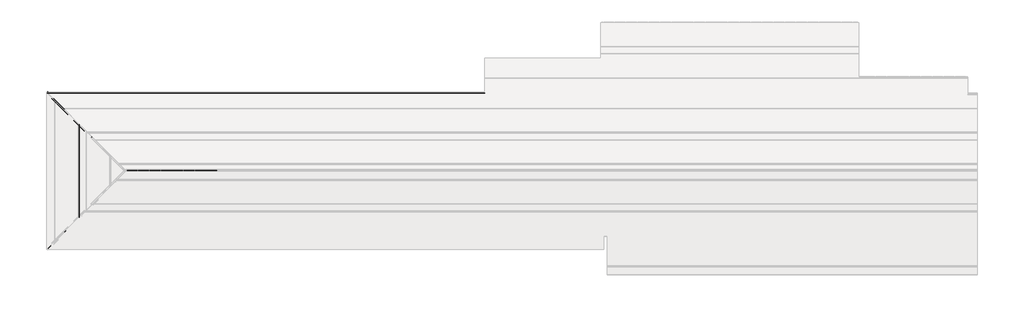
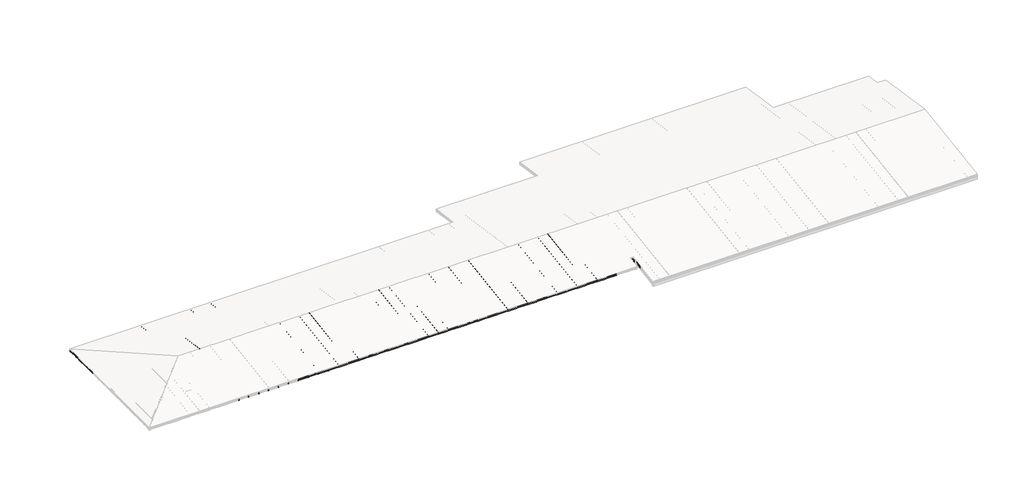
# One storey, part 2 of 5: 54 plates, 48 members.
"""IFC4 building model written with IfcOpenShell, lengths in millimetres."""

from ifc_helpers import new_model, si_unit, origin, place, context, project, spatial, transform, mapped, element, save
from components import rectangular_mullion_bbf62922, rectangular_mullion_e5e8d682, rectangular_mullion_0c49ef61, rectangular_mullion_e713be55, rectangular_mullion_00b2bed0, rectangular_mullion_bd6efb2f, rectangular_mullion_a21c3188, rectangular_mullion_b5eedd0f, rectangular_mullion_e9ded699, rectangular_mullion_307d02f0, rectangular_mullion_8ea9f5d9, rectangular_mullion_caibro_4x6_cm_5a20d9f2, rectangular_mullion_caibro_4x6_cm_82faaf76, rectangular_mullion_caibro_4x6_cm_ced69cca, rectangular_mullion_caibro_4x6_cm_cb7c813f, rectangular_mullion_caibro_4x6_cm_0dd1b79d, rectangular_mullion_caibro_4x6_cm_ab382801, rectangular_mullion_caibro_4x6_cm_8b7b774c, rectangular_mullion_caibro_4x6_cm_f4b4e3a9, rectangular_mullion_caibro_4x6_cm_b0cc08a8, rectangular_mullion_caibro_4x6_cm_55eea3d4, rectangular_mullion_caibro_4x6_cm_cc310553, empty_system_panel_empty_9e1b447b, empty_system_panel_empty_7d408543, empty_system_panel_empty_2ba5a98a, empty_system_panel_empty_6623d2ed, empty_system_panel_empty_d8ed4732, empty_system_panel_empty_2293368e, empty_system_panel_empty_8c4cd139, empty_system_panel_empty_6ffdb811, empty_system_panel_empty_0af2d2b1, empty_system_panel_empty_6e2854e8, empty_system_panel_empty_22570948, empty_system_panel_empty_322303ac, empty_system_panel_empty_4bf87af0, empty_system_panel_empty_255742c4, empty_system_panel_empty_851c8931

model = new_model("IFC4")

# Units and contexts
model_context = context("Model", 3, world=origin())
ifc_project = project(units=[si_unit("LENGTHUNIT", "METRE", prefix="MILLI")], contexts=[model_context])

# Site, building, storey
site = spatial("IfcSite", under=ifc_project)
building = spatial("IfcBuilding", under=site)
storey = spatial("IfcBuildingStorey", under=building, Name="NÍVEL 1", Elevation=3400.0)

# Members
placement = place(None, origin())
rectangular_mullion_shape = rectangular_mullion_bbf62922(model_context)
element("IfcMember", 1, ObjectType="Rectangular Mullion : RIPA 4x2 cm", at=placement, inside=storey, context=model_context, shape_type="MappedRepresentation", body=[
    mapped(rectangular_mullion_shape, transform((-19807.3834094, -5252.0637549, 3807.25), x_axis=(0.0, 0.9889363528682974, 0.1483404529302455), y_axis=(0.0, 0.1483404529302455, -0.9889363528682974), z_axis=(-1.0, 0.0, 0.0))),
])
rectangular_mullion_2_shape = rectangular_mullion_e5e8d682(model_context)
element("IfcMember", 2, ObjectType="Rectangular Mullion : RIPA 4x2 cm", at=placement, inside=storey, context=model_context, shape_type="MappedRepresentation", body=[
    mapped(rectangular_mullion_2_shape, transform((-23257.5493641, -1801.8978002, 3289.7251068), x_axis=(0.0, 0.9889363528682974, -0.1483404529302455), y_axis=(0.0, -0.1483404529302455, -0.9889363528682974), z_axis=(-1.0, 0.0, 0.0))),
])
rectangular_mullion_3_shape = rectangular_mullion_0c49ef61(model_context)
element("IfcMember", 3, ObjectType="Rectangular Mullion : RIPA 4x2 cm", at=placement, inside=storey, context=model_context, shape_type="MappedRepresentation", body=[
    mapped(rectangular_mullion_3_shape, transform((-19852.9442768, -5297.6246223, 3800.4158699), x_axis=(0.0, 0.9889363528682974, 0.1483404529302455), y_axis=(0.0, 0.1483404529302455, -0.9889363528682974), z_axis=(-1.0, 0.0, 0.0))),
])
rectangular_mullion_4_shape = rectangular_mullion_e713be55(model_context)
element("IfcMember", 4, ObjectType="Rectangular Mullion : RIPA 4x2 cm", at=placement, inside=storey, context=model_context, shape_type="MappedRepresentation", body=[
    mapped(rectangular_mullion_4_shape, transform((-22891.6429135, -2167.8042507, 3344.6110744), x_axis=(0.9889363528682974, 0.0, 0.14834045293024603), y_axis=(0.14834045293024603, 0.0, -0.9889363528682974), z_axis=(0.0, 1.0, 0.0))),
])
rectangular_mullion_5_shape = rectangular_mullion_00b2bed0(model_context)
element("IfcMember", 5, ObjectType="Rectangular Mullion : RIPA 4x2 cm", at=placement, inside=storey, context=model_context, shape_type="MappedRepresentation", body=[
    mapped(rectangular_mullion_5_shape, transform((-22545.51519, -2513.9319742, 3396.5302329), x_axis=(0.9889363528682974, 0.0, 0.14834045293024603), y_axis=(0.14834045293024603, 0.0, -0.9889363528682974), z_axis=(0.0, 1.0, 0.0))),
])
rectangular_mullion_6_shape = rectangular_mullion_bd6efb2f(model_context)
element("IfcMember", 6, ObjectType="Rectangular Mullion : RIPA 4x2 cm", at=placement, inside=storey, context=model_context, shape_type="MappedRepresentation", body=[
    mapped(rectangular_mullion_6_shape, transform((-22199.3874665, -2860.0596977, 3448.4493914), x_axis=(0.9889363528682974, 0.0, 0.14834045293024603), y_axis=(0.14834045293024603, 0.0, -0.9889363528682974), z_axis=(0.0, 1.0, 0.0))),
])
rectangular_mullion_7_shape = rectangular_mullion_a21c3188(model_context)
element("IfcMember", 7, ObjectType="Rectangular Mullion : RIPA 4x2 cm", at=placement, inside=storey, context=model_context, shape_type="MappedRepresentation", body=[
    mapped(rectangular_mullion_7_shape, transform((-21853.259743, -3206.1874213, 3500.36855), x_axis=(0.9889363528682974, 0.0, 0.14834045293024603), y_axis=(0.14834045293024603, 0.0, -0.9889363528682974), z_axis=(0.0, 1.0, 0.0))),
])
rectangular_mullion_8_shape = rectangular_mullion_b5eedd0f(model_context)
element("IfcMember", 8, ObjectType="Rectangular Mullion : RIPA 4x2 cm", at=placement, inside=storey, context=model_context, shape_type="MappedRepresentation", body=[
    mapped(rectangular_mullion_8_shape, transform((-21507.1320195, -3552.3151448, 3552.2877085), x_axis=(0.9889363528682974, 0.0, 0.14834045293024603), y_axis=(0.14834045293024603, 0.0, -0.9889363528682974), z_axis=(0.0, 1.0, 0.0))),
])
rectangular_mullion_9_shape = rectangular_mullion_e9ded699(model_context)
element("IfcMember", 9, ObjectType="Rectangular Mullion : RIPA 4x2 cm", at=placement, inside=storey, context=model_context, shape_type="MappedRepresentation", body=[
    mapped(rectangular_mullion_9_shape, transform((-21161.004296, -3898.4428683, 3604.206867), x_axis=(0.9889363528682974, 0.0, 0.14834045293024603), y_axis=(0.14834045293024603, 0.0, -0.9889363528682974), z_axis=(0.0, 1.0, 0.0))),
])
rectangular_mullion_10_shape = rectangular_mullion_307d02f0(model_context)
element("IfcMember", 10, ObjectType="Rectangular Mullion : TERÇA 6x12 cm", at=placement, inside=storey, context=model_context, shape_type="MappedRepresentation", body=[
    mapped(rectangular_mullion_10_shape, transform((-22657.5493641, -2401.8978002, 3316.0538615), x_axis=(0.0, 0.9889363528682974, -0.1483404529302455), y_axis=(0.0, -0.1483404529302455, -0.9889363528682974), z_axis=(-1.0, 0.0, 0.0))),
])
rectangular_mullion_11_shape = rectangular_mullion_8ea9f5d9(model_context)
element("IfcMember", 11, ObjectType="Rectangular Mullion : TERÇA 6x12 cm", at=placement, inside=storey, context=model_context, shape_type="MappedRepresentation", body=[
    mapped(rectangular_mullion_11_shape, transform((-21108.7940244, -3950.6531399, 3548.3671625), x_axis=(0.9889363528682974, 0.0, 0.14834045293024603), y_axis=(0.14834045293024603, 0.0, -0.9889363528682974), z_axis=(0.0, 1.0, 0.0))),
])
rectangular_mullion_caibro_4x6_cm_shape = rectangular_mullion_caibro_4x6_cm_5a20d9f2(model_context)
element("IfcMember", 12, ObjectType="Rectangular Mullion : CAIBRO 4x6 cm", at=placement, inside=storey, context=model_context, shape_type="MappedRepresentation", body=[
    mapped(rectangular_mullion_caibro_4x6_cm_shape, transform((-22764.6685134, -2294.7786509, 3363.6572344), x_axis=(0.0, -1.0, 0.0), y_axis=(0.1483404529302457, 0.0, -0.9889363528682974), z_axis=(0.9889363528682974, 0.0, 0.1483404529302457))),
])
rectangular_mullion_caibro_4x6_cm_2_shape = rectangular_mullion_caibro_4x6_cm_82faaf76(model_context)
element("IfcMember", 13, ObjectType="Rectangular Mullion : CAIBRO 4x6 cm", at=placement, inside=storey, context=model_context, shape_type="MappedRepresentation", body=[
    mapped(rectangular_mullion_caibro_4x6_cm_2_shape, transform((-22271.7876627, -2787.6595015, 3437.589362), x_axis=(0.0, -1.0, 0.0), y_axis=(0.1483404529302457, 0.0, -0.9889363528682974), z_axis=(0.9889363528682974, 0.0, 0.1483404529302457))),
])
rectangular_mullion_caibro_4x6_cm_3_shape = rectangular_mullion_caibro_4x6_cm_ced69cca(model_context)
element("IfcMember", 14, ObjectType="Rectangular Mullion : CAIBRO 4x6 cm", at=placement, inside=storey, context=model_context, shape_type="MappedRepresentation", body=[
    mapped(rectangular_mullion_caibro_4x6_cm_3_shape, transform((-21778.9068121, -3280.5403522, 3511.5214896), x_axis=(0.0, -1.0, 0.0), y_axis=(0.14834045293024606, 0.0, -0.9889363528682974), z_axis=(0.9889363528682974, 0.0, 0.14834045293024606))),
])
rectangular_mullion_caibro_4x6_cm_4_shape = rectangular_mullion_caibro_4x6_cm_cb7c813f(model_context)
element("IfcMember", 15, ObjectType="Rectangular Mullion : CAIBRO 4x6 cm", at=placement, inside=storey, context=model_context, shape_type="MappedRepresentation", body=[
    mapped(rectangular_mullion_caibro_4x6_cm_4_shape, transform((-21286.0259614, -3773.4212029, 3585.4536172), x_axis=(0.0, -1.0, 0.0), y_axis=(0.14834045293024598, 0.0, -0.9889363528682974), z_axis=(0.9889363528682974, 0.0, 0.14834045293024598))),
])
rectangular_mullion_caibro_4x6_cm_5_shape = rectangular_mullion_caibro_4x6_cm_0dd1b79d(model_context)
element("IfcMember", 16, ObjectType="Rectangular Mullion : CAIBRO 4x6 cm", at=placement, inside=storey, context=model_context, shape_type="MappedRepresentation", body=[
    mapped(rectangular_mullion_caibro_4x6_cm_5_shape, transform((-21260.7120004, -3798.7351638, 3589.2507113), x_axis=(-1.0, 0.0, 0.0), y_axis=(0.0, -0.1483404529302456, -0.9889363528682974), z_axis=(0.0, -0.9889363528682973, 0.14834045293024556))),
])
rectangular_mullion_caibro_4x6_cm_6_shape = rectangular_mullion_caibro_4x6_cm_ab382801(model_context)
element("IfcMember", 17, ObjectType="Rectangular Mullion : CAIBRO 4x6 cm", at=placement, inside=storey, context=model_context, shape_type="MappedRepresentation", body=[
    mapped(rectangular_mullion_caibro_4x6_cm_6_shape, transform((-21759.9213413, -3299.5258229, 3514.3693102), x_axis=(-1.0, 0.0, 0.0), y_axis=(0.0, -0.14834045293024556, -0.9889363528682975), z_axis=(0.0, -0.9889363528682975, 0.14834045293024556))),
])
rectangular_mullion_caibro_4x6_cm_7_shape = rectangular_mullion_caibro_4x6_cm_8b7b774c(model_context)
element("IfcMember", 18, ObjectType="Rectangular Mullion : CAIBRO 4x6 cm", at=placement, inside=storey, context=model_context, shape_type="MappedRepresentation", body=[
    mapped(rectangular_mullion_caibro_4x6_cm_7_shape, transform((-22259.1306822, -2800.316482, 3439.4879091), x_axis=(-1.0, 0.0, 0.0), y_axis=(0.0, -0.14834045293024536, -0.9889363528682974), z_axis=(0.0, -0.9889363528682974, 0.14834045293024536))),
])
rectangular_mullion_caibro_4x6_cm_8_shape = rectangular_mullion_caibro_4x6_cm_f4b4e3a9(model_context)
element("IfcMember", 19, ObjectType="Rectangular Mullion : CAIBRO 4x6 cm", at=placement, inside=storey, context=model_context, shape_type="MappedRepresentation", body=[
    mapped(rectangular_mullion_caibro_4x6_cm_8_shape, transform((-22758.3400232, -2301.1071411, 3364.6065079), x_axis=(-1.0, 0.0, 0.0), y_axis=(0.0, -0.14834045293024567, -0.9889363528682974), z_axis=(0.0, -0.9889363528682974, 0.14834045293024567))),
])
rectangular_mullion_caibro_4x6_cm_9_shape = rectangular_mullion_caibro_4x6_cm_b0cc08a8(model_context)
element("IfcMember", 20, ObjectType="Rectangular Mullion : CAIBRO 4x6 cm", at=placement, inside=storey, context=model_context, shape_type="MappedRepresentation", body=[
    mapped(rectangular_mullion_caibro_4x6_cm_9_shape, transform((-23257.5493641, -1801.8978002, 3289.7251068), x_axis=(0.6953830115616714, 0.7110291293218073, 0.1043074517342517), y_axis=(0.14834045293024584, 0.0, -0.9889363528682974), z_axis=(-0.703162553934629, 0.7031625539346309, -0.10547438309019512))),
])
rectangular_mullion_caibro_4x6_cm_10_shape = rectangular_mullion_caibro_4x6_cm_55eea3d4(model_context)
element("IfcMember", 21, ObjectType="Rectangular Mullion : CAIBRO 4x6 cm", at=placement, inside=storey, context=model_context, shape_type="MappedRepresentation", body=[
    mapped(rectangular_mullion_caibro_4x6_cm_10_shape, transform((-21260.7120004, -3798.7351638, 3589.2507113), x_axis=(-0.7110291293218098, -0.6953830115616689, 0.10430745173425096), y_axis=(0.0, -0.14834045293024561, -0.9889363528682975), z_axis=(0.7031625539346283, -0.7031625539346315, 0.10547438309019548))),
])
element("IfcMember", 22, ObjectType="Rectangular Mullion : CAIBRO 4x6 cm", at=placement, inside=storey, context=model_context, shape_type="MappedRepresentation", body=[
    mapped(rectangular_mullion_caibro_4x6_cm_10_shape, transform((-21759.9213413, -3299.5258229, 3514.3693102), x_axis=(-0.7110291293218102, -0.6953830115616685, 0.1043074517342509), y_axis=(0.0, -0.14834045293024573, -0.9889363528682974), z_axis=(0.703162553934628, -0.7031625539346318, 0.10547438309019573))),
])
element("IfcMember", 23, ObjectType="Rectangular Mullion : CAIBRO 4x6 cm", at=placement, inside=storey, context=model_context, shape_type="MappedRepresentation", body=[
    mapped(rectangular_mullion_caibro_4x6_cm_10_shape, transform((-22259.1306822, -2800.316482, 3439.4879091), x_axis=(-0.7110291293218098, -0.6953830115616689, 0.10430745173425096), y_axis=(0.0, -0.14834045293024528, -0.9889363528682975), z_axis=(0.7031625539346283, -0.7031625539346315, 0.10547438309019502))),
])
element("IfcMember", 24, ObjectType="Rectangular Mullion : CAIBRO 4x6 cm", at=placement, inside=storey, context=model_context, shape_type="MappedRepresentation", body=[
    mapped(rectangular_mullion_caibro_4x6_cm_10_shape, transform((-22758.3400232, -2301.1071411, 3364.6065079), x_axis=(-0.7110291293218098, -0.6953830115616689, 0.10430745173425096), y_axis=(0.0, -0.14834045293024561, -0.9889363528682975), z_axis=(0.7031625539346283, -0.7031625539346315, 0.10547438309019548))),
])
element("IfcMember", 25, ObjectType="Rectangular Mullion : CAIBRO 4x6 cm", at=placement, inside=storey, context=model_context, shape_type="MappedRepresentation", body=[
    mapped(rectangular_mullion_caibro_4x6_cm_9_shape, transform((-22764.6685134, -2294.7786509, 3363.6572344), x_axis=(0.6953830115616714, 0.7110291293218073, 0.1043074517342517), y_axis=(0.14834045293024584, 0.0, -0.9889363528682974), z_axis=(-0.703162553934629, 0.7031625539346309, -0.10547438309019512))),
])
element("IfcMember", 26, ObjectType="Rectangular Mullion : CAIBRO 4x6 cm", at=placement, inside=storey, context=model_context, shape_type="MappedRepresentation", body=[
    mapped(rectangular_mullion_caibro_4x6_cm_9_shape, transform((-22271.7876627, -2787.6595015, 3437.589362), x_axis=(0.6953830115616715, 0.7110291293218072, 0.10430745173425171), y_axis=(0.1483404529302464, 0.0, -0.9889363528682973), z_axis=(-0.7031625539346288, 0.703162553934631, -0.10547438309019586))),
])
element("IfcMember", 27, ObjectType="Rectangular Mullion : CAIBRO 4x6 cm", at=placement, inside=storey, context=model_context, shape_type="MappedRepresentation", body=[
    mapped(rectangular_mullion_caibro_4x6_cm_9_shape, transform((-21778.9068121, -3280.5403522, 3511.5214896), x_axis=(0.6953830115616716, 0.7110291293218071, 0.10430745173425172), y_axis=(0.1483404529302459, 0.0, -0.9889363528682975), z_axis=(-0.7031625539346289, 0.7031625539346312, -0.1054743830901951))),
])
element("IfcMember", 28, ObjectType="Rectangular Mullion : CAIBRO 4x6 cm", at=placement, inside=storey, context=model_context, shape_type="MappedRepresentation", body=[
    mapped(rectangular_mullion_caibro_4x6_cm_9_shape, transform((-21286.0259614, -3773.4212029, 3585.4536172), x_axis=(0.6953830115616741, 0.7110291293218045, 0.10430745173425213), y_axis=(0.14834045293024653, 0.0, -0.9889363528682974), z_axis=(-0.7031625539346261, 0.7031625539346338, -0.10547438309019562))),
])
rectangular_mullion_caibro_4x6_cm_11_shape = rectangular_mullion_caibro_4x6_cm_cc310553(model_context)
element("IfcMember", 29, ObjectType="Rectangular Mullion : CAIBRO 4x6 cm", at=placement, inside=storey, context=model_context, shape_type="MappedRepresentation", body=[
    mapped(rectangular_mullion_caibro_4x6_cm_11_shape, transform((-18764.6652959, -5252.0637549, 3807.25), x_axis=(1.0, 0.0, 0.0), y_axis=(0.0, 0.14834045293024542, -0.9889363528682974), z_axis=(0.0, 0.9889363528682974, 0.14834045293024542))),
])
element("IfcMember", 30, ObjectType="Rectangular Mullion : CAIBRO 4x6 cm", at=placement, inside=storey, context=model_context, shape_type="MappedRepresentation", body=[
    mapped(rectangular_mullion_caibro_4x6_cm_11_shape, transform((-18265.455955, -5252.0637549, 3807.25), x_axis=(1.0, 0.0, 0.0), y_axis=(0.0, 0.14834045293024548, -0.9889363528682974), z_axis=(0.0, 0.9889363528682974, 0.14834045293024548))),
])
element("IfcMember", 31, ObjectType="Rectangular Mullion : CAIBRO 4x6 cm", at=placement, inside=storey, context=model_context, shape_type="MappedRepresentation", body=[
    mapped(rectangular_mullion_caibro_4x6_cm_11_shape, transform((-17766.246614, -5252.0637549, 3807.25), x_axis=(1.0, 0.0, 0.0), y_axis=(0.0, 0.14834045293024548, -0.9889363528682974), z_axis=(0.0, 0.9889363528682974, 0.14834045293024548))),
])
element("IfcMember", 32, ObjectType="Rectangular Mullion : CAIBRO 4x6 cm", at=placement, inside=storey, context=model_context, shape_type="MappedRepresentation", body=[
    mapped(rectangular_mullion_caibro_4x6_cm_11_shape, transform((-17267.0372731, -5252.0637549, 3807.25), x_axis=(1.0, 0.0, 0.0), y_axis=(0.0, 0.14834045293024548, -0.9889363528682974), z_axis=(0.0, 0.9889363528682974, 0.14834045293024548))),
])
element("IfcMember", 33, ObjectType="Rectangular Mullion : CAIBRO 4x6 cm", at=placement, inside=storey, context=model_context, shape_type="MappedRepresentation", body=[
    mapped(rectangular_mullion_caibro_4x6_cm_11_shape, transform((-16767.8279322, -5252.0637549, 3807.25), x_axis=(1.0, 0.0, 0.0), y_axis=(0.0, 0.14834045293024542, -0.9889363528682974), z_axis=(0.0, 0.9889363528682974, 0.14834045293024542))),
])
element("IfcMember", 34, ObjectType="Rectangular Mullion : CAIBRO 4x6 cm", at=placement, inside=storey, context=model_context, shape_type="MappedRepresentation", body=[
    mapped(rectangular_mullion_caibro_4x6_cm_11_shape, transform((-16268.6185913, -5252.0637549, 3807.25), x_axis=(1.0, 0.0, 0.0), y_axis=(0.0, 0.1483404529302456, -0.9889363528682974), z_axis=(0.0, 0.9889363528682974, 0.1483404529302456))),
])
element("IfcMember", 35, ObjectType="Rectangular Mullion : CAIBRO 4x6 cm", at=placement, inside=storey, context=model_context, shape_type="MappedRepresentation", body=[
    mapped(rectangular_mullion_caibro_4x6_cm_11_shape, transform((-15769.4092504, -5252.0637549, 3807.25), x_axis=(1.0, 0.0, 0.0), y_axis=(0.0, 0.1483404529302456, -0.9889363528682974), z_axis=(0.0, 0.9889363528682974, 0.1483404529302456))),
])
element("IfcMember", 36, ObjectType="Rectangular Mullion : CAIBRO 4x6 cm", at=placement, inside=storey, context=model_context, shape_type="MappedRepresentation", body=[
    mapped(rectangular_mullion_caibro_4x6_cm_11_shape, transform((-15270.1999095, -5252.0637549, 3807.25), x_axis=(1.0, 0.0, 0.0), y_axis=(0.0, 0.1483404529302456, -0.9889363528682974), z_axis=(0.0, 0.9889363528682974, 0.1483404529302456))),
])
element("IfcMember", 37, ObjectType="Rectangular Mullion : CAIBRO 4x6 cm", at=placement, inside=storey, context=model_context, shape_type="MappedRepresentation", body=[
    mapped(rectangular_mullion_caibro_4x6_cm_11_shape, transform((-14770.9905686, -5252.0637549, 3807.25), x_axis=(1.0, 0.0, 0.0), y_axis=(0.0, 0.1483404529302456, -0.9889363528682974), z_axis=(0.0, 0.9889363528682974, 0.1483404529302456))),
])
element("IfcMember", 38, ObjectType="Rectangular Mullion : CAIBRO 4x6 cm", at=placement, inside=storey, context=model_context, shape_type="MappedRepresentation", body=[
    mapped(rectangular_mullion_caibro_4x6_cm_11_shape, transform((-14271.7812277, -5252.0637549, 3807.25), x_axis=(1.0, 0.0, 0.0), y_axis=(0.0, 0.1483404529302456, -0.9889363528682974), z_axis=(0.0, 0.9889363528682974, 0.1483404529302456))),
])
element("IfcMember", 39, ObjectType="Rectangular Mullion : CAIBRO 4x6 cm", at=placement, inside=storey, context=model_context, shape_type="MappedRepresentation", body=[
    mapped(rectangular_mullion_caibro_4x6_cm_11_shape, transform((-14271.7812277, -5252.0637549, 3807.25), x_axis=(-1.0, 0.0, 0.0), y_axis=(0.0, -0.14834045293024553, -0.9889363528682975), z_axis=(0.0, -0.9889363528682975, 0.14834045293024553))),
])
element("IfcMember", 40, ObjectType="Rectangular Mullion : CAIBRO 4x6 cm", at=placement, inside=storey, context=model_context, shape_type="MappedRepresentation", body=[
    mapped(rectangular_mullion_caibro_4x6_cm_11_shape, transform((-14770.9905686, -5252.0637549, 3807.25), x_axis=(-1.0, 0.0, 0.0), y_axis=(0.0, -0.14834045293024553, -0.9889363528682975), z_axis=(0.0, -0.9889363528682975, 0.14834045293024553))),
])
element("IfcMember", 41, ObjectType="Rectangular Mullion : CAIBRO 4x6 cm", at=placement, inside=storey, context=model_context, shape_type="MappedRepresentation", body=[
    mapped(rectangular_mullion_caibro_4x6_cm_11_shape, transform((-15270.1999095, -5252.0637549, 3807.25), x_axis=(-1.0, 0.0, 0.0), y_axis=(0.0, -0.14834045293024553, -0.9889363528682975), z_axis=(0.0, -0.9889363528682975, 0.14834045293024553))),
])
element("IfcMember", 42, ObjectType="Rectangular Mullion : CAIBRO 4x6 cm", at=placement, inside=storey, context=model_context, shape_type="MappedRepresentation", body=[
    mapped(rectangular_mullion_caibro_4x6_cm_11_shape, transform((-15769.4092504, -5252.0637549, 3807.25), x_axis=(-1.0, 0.0, 0.0), y_axis=(0.0, -0.14834045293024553, -0.9889363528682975), z_axis=(0.0, -0.9889363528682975, 0.14834045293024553))),
])
element("IfcMember", 43, ObjectType="Rectangular Mullion : CAIBRO 4x6 cm", at=placement, inside=storey, context=model_context, shape_type="MappedRepresentation", body=[
    mapped(rectangular_mullion_caibro_4x6_cm_11_shape, transform((-16268.6185913, -5252.0637549, 3807.25), x_axis=(-1.0, 0.0, 0.0), y_axis=(0.0, -0.14834045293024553, -0.9889363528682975), z_axis=(0.0, -0.9889363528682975, 0.14834045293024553))),
])
element("IfcMember", 44, ObjectType="Rectangular Mullion : CAIBRO 4x6 cm", at=placement, inside=storey, context=model_context, shape_type="MappedRepresentation", body=[
    mapped(rectangular_mullion_caibro_4x6_cm_11_shape, transform((-16767.8279322, -5252.0637549, 3807.25), x_axis=(-1.0, 0.0, 0.0), y_axis=(0.0, -0.14834045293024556, -0.9889363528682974), z_axis=(0.0, -0.9889363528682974, 0.14834045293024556))),
])
element("IfcMember", 45, ObjectType="Rectangular Mullion : CAIBRO 4x6 cm", at=placement, inside=storey, context=model_context, shape_type="MappedRepresentation", body=[
    mapped(rectangular_mullion_caibro_4x6_cm_11_shape, transform((-17267.0372731, -5252.0637549, 3807.25), x_axis=(-1.0, 0.0, 0.0), y_axis=(0.0, -0.14834045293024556, -0.9889363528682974), z_axis=(0.0, -0.9889363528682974, 0.14834045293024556))),
])
element("IfcMember", 46, ObjectType="Rectangular Mullion : CAIBRO 4x6 cm", at=placement, inside=storey, context=model_context, shape_type="MappedRepresentation", body=[
    mapped(rectangular_mullion_caibro_4x6_cm_11_shape, transform((-17766.246614, -5252.0637549, 3807.25), x_axis=(-1.0, 0.0, 0.0), y_axis=(0.0, -0.14834045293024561, -0.9889363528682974), z_axis=(0.0, -0.9889363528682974, 0.14834045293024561))),
])
element("IfcMember", 47, ObjectType="Rectangular Mullion : CAIBRO 4x6 cm", at=placement, inside=storey, context=model_context, shape_type="MappedRepresentation", body=[
    mapped(rectangular_mullion_caibro_4x6_cm_11_shape, transform((-18265.455955, -5252.0637549, 3807.25), x_axis=(-1.0, 0.0, 0.0), y_axis=(0.0, -0.14834045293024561, -0.9889363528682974), z_axis=(0.0, -0.9889363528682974, 0.14834045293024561))),
])
element("IfcMember", 48, ObjectType="Rectangular Mullion : CAIBRO 4x6 cm", at=placement, inside=storey, context=model_context, shape_type="MappedRepresentation", body=[
    mapped(rectangular_mullion_caibro_4x6_cm_11_shape, transform((-18764.6652959, -5252.0637549, 3807.25), x_axis=(-1.0, 0.0, 0.0), y_axis=(0.0, -0.14834045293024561, -0.9889363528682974), z_axis=(0.0, -0.9889363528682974, 0.14834045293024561))),
])

# Plates
empty_system_panel_empty_shape = empty_system_panel_empty_9e1b447b(model_context)
element("IfcPlate", 49, ObjectType="Empty System Panel : Empty", at=placement, inside=storey, context=model_context, shape_type="MappedRepresentation", body=[
    mapped(empty_system_panel_empty_shape, transform((-23257.5493641, -2066.4664683, 3289.7251068), x_axis=(0.0, -1.0, 0.0), y_axis=(0.14834045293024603, 0.0, -0.9889363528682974), z_axis=(0.9889363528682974, 0.0, 0.14834045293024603))),
])
empty_system_panel_empty_2_shape = empty_system_panel_empty_7d408543(model_context)
element("IfcPlate", 50, ObjectType="Empty System Panel : Empty", at=placement, inside=storey, context=model_context, shape_type="MappedRepresentation", body=[
    mapped(empty_system_panel_empty_2_shape, transform((-15519.8045799, -8702.2297096, 3289.7251068), x_axis=(1.0, 0.0, 0.0), y_axis=(0.0, 0.1483404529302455, -0.9889363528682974), z_axis=(0.0, 0.9889363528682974, 0.1483404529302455))),
])
element("IfcPlate", 51, ObjectType="Empty System Panel : Empty", at=placement, inside=storey, context=model_context, shape_type="MappedRepresentation", body=[
    mapped(empty_system_panel_empty_2_shape, transform((-15020.595239, -8702.2297096, 3289.7251068), x_axis=(1.0, 0.0, 0.0), y_axis=(0.0, 0.1483404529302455, -0.9889363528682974), z_axis=(0.0, 0.9889363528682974, 0.1483404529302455))),
])
element("IfcPlate", 52, ObjectType="Empty System Panel : Empty", at=placement, inside=storey, context=model_context, shape_type="MappedRepresentation", body=[
    mapped(empty_system_panel_empty_2_shape, transform((-14521.3858981, -8702.2297096, 3289.7251068), x_axis=(1.0, 0.0, 0.0), y_axis=(0.0, 0.1483404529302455, -0.9889363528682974), z_axis=(0.0, 0.9889363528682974, 0.1483404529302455))),
])
element("IfcPlate", 53, ObjectType="Empty System Panel : Empty", at=placement, inside=storey, context=model_context, shape_type="MappedRepresentation", body=[
    mapped(empty_system_panel_empty_2_shape, transform((-14022.1765572, -8702.2297096, 3289.7251068), x_axis=(1.0, 0.0, 0.0), y_axis=(0.0, 0.1483404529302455, -0.9889363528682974), z_axis=(0.0, 0.9889363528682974, 0.1483404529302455))),
])
element("IfcPlate", 54, ObjectType="Empty System Panel : Empty", at=placement, inside=storey, context=model_context, shape_type="MappedRepresentation", body=[
    mapped(empty_system_panel_empty_2_shape, transform((-13522.9672163, -8702.2297096, 3289.7251068), x_axis=(1.0, 0.0, 0.0), y_axis=(0.0, 0.1483404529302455, -0.9889363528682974), z_axis=(0.0, 0.9889363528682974, 0.1483404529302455))),
])
element("IfcPlate", 55, ObjectType="Empty System Panel : Empty", at=placement, inside=storey, context=model_context, shape_type="MappedRepresentation", body=[
    mapped(empty_system_panel_empty_2_shape, transform((-13023.7578754, -8702.2297096, 3289.7251068), x_axis=(1.0, 0.0, 0.0), y_axis=(0.0, 0.1483404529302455, -0.9889363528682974), z_axis=(0.0, 0.9889363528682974, 0.1483404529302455))),
])
element("IfcPlate", 56, ObjectType="Empty System Panel : Empty", at=placement, inside=storey, context=model_context, shape_type="MappedRepresentation", body=[
    mapped(empty_system_panel_empty_2_shape, transform((-12524.5485345, -8702.2297096, 3289.7251068), x_axis=(1.0, 0.0, 0.0), y_axis=(0.0, 0.1483404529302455, -0.9889363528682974), z_axis=(0.0, 0.9889363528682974, 0.1483404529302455))),
])
element("IfcPlate", 57, ObjectType="Empty System Panel : Empty", at=placement, inside=storey, context=model_context, shape_type="MappedRepresentation", body=[
    mapped(empty_system_panel_empty_2_shape, transform((-12025.3391936, -8702.2297096, 3289.7251068), x_axis=(1.0, 0.0, 0.0), y_axis=(0.0, 0.1483404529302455, -0.9889363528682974), z_axis=(0.0, 0.9889363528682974, 0.1483404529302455))),
])
element("IfcPlate", 58, ObjectType="Empty System Panel : Empty", at=placement, inside=storey, context=model_context, shape_type="MappedRepresentation", body=[
    mapped(empty_system_panel_empty_2_shape, transform((-11526.1298527, -8702.2297096, 3289.7251068), x_axis=(1.0, 0.0, 0.0), y_axis=(0.0, 0.1483404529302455, -0.9889363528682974), z_axis=(0.0, 0.9889363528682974, 0.1483404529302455))),
])
element("IfcPlate", 59, ObjectType="Empty System Panel : Empty", at=placement, inside=storey, context=model_context, shape_type="MappedRepresentation", body=[
    mapped(empty_system_panel_empty_2_shape, transform((-11026.9205117, -8702.2297096, 3289.7251068), x_axis=(1.0, 0.0, 0.0), y_axis=(0.0, 0.1483404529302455, -0.9889363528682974), z_axis=(0.0, 0.9889363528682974, 0.1483404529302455))),
])
element("IfcPlate", 60, ObjectType="Empty System Panel : Empty", at=placement, inside=storey, context=model_context, shape_type="MappedRepresentation", body=[
    mapped(empty_system_panel_empty_2_shape, transform((-10527.7111708, -8702.2297096, 3289.7251068), x_axis=(1.0, 0.0, 0.0), y_axis=(0.0, 0.1483404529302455, -0.9889363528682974), z_axis=(0.0, 0.9889363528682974, 0.1483404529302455))),
])
element("IfcPlate", 61, ObjectType="Empty System Panel : Empty", at=placement, inside=storey, context=model_context, shape_type="MappedRepresentation", body=[
    mapped(empty_system_panel_empty_2_shape, transform((-10028.5018299, -8702.2297096, 3289.7251068), x_axis=(1.0, 0.0, 0.0), y_axis=(0.0, 0.1483404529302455, -0.9889363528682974), z_axis=(0.0, 0.9889363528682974, 0.1483404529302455))),
])
element("IfcPlate", 62, ObjectType="Empty System Panel : Empty", at=placement, inside=storey, context=model_context, shape_type="MappedRepresentation", body=[
    mapped(empty_system_panel_empty_2_shape, transform((-9529.292489, -8702.2297096, 3289.7251068), x_axis=(1.0, 0.0, 0.0), y_axis=(0.0, 0.1483404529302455, -0.9889363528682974), z_axis=(0.0, 0.9889363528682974, 0.1483404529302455))),
])
element("IfcPlate", 63, ObjectType="Empty System Panel : Empty", at=placement, inside=storey, context=model_context, shape_type="MappedRepresentation", body=[
    mapped(empty_system_panel_empty_2_shape, transform((-9030.0831481, -8702.2297096, 3289.7251068), x_axis=(1.0, 0.0, 0.0), y_axis=(0.0, 0.1483404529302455, -0.9889363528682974), z_axis=(0.0, 0.9889363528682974, 0.1483404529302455))),
])
element("IfcPlate", 64, ObjectType="Empty System Panel : Empty", at=placement, inside=storey, context=model_context, shape_type="MappedRepresentation", body=[
    mapped(empty_system_panel_empty_2_shape, transform((-8530.8738072, -8702.2297096, 3289.7251068), x_axis=(1.0, 0.0, 0.0), y_axis=(0.0, 0.1483404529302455, -0.9889363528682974), z_axis=(0.0, 0.9889363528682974, 0.1483404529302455))),
])
element("IfcPlate", 65, ObjectType="Empty System Panel : Empty", at=placement, inside=storey, context=model_context, shape_type="MappedRepresentation", body=[
    mapped(empty_system_panel_empty_2_shape, transform((-8031.6644663, -8702.2297096, 3289.7251068), x_axis=(1.0, 0.0, 0.0), y_axis=(0.0, 0.1483404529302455, -0.9889363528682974), z_axis=(0.0, 0.9889363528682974, 0.1483404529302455))),
])
element("IfcPlate", 66, ObjectType="Empty System Panel : Empty", at=placement, inside=storey, context=model_context, shape_type="MappedRepresentation", body=[
    mapped(empty_system_panel_empty_2_shape, transform((-7532.4551254, -8702.2297096, 3289.7251068), x_axis=(1.0, 0.0, 0.0), y_axis=(0.0, 0.1483404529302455, -0.9889363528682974), z_axis=(0.0, 0.9889363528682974, 0.1483404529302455))),
])
element("IfcPlate", 67, ObjectType="Empty System Panel : Empty", at=placement, inside=storey, context=model_context, shape_type="MappedRepresentation", body=[
    mapped(empty_system_panel_empty_2_shape, transform((-7033.2457845, -8702.2297096, 3289.7251068), x_axis=(1.0, 0.0, 0.0), y_axis=(0.0, 0.1483404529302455, -0.9889363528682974), z_axis=(0.0, 0.9889363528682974, 0.1483404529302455))),
])
element("IfcPlate", 68, ObjectType="Empty System Panel : Empty", at=placement, inside=storey, context=model_context, shape_type="MappedRepresentation", body=[
    mapped(empty_system_panel_empty_2_shape, transform((-6534.0364435, -8702.2297096, 3289.7251068), x_axis=(1.0, 0.0, 0.0), y_axis=(0.0, 0.1483404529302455, -0.9889363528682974), z_axis=(0.0, 0.9889363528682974, 0.1483404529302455))),
])
element("IfcPlate", 69, ObjectType="Empty System Panel : Empty", at=placement, inside=storey, context=model_context, shape_type="MappedRepresentation", body=[
    mapped(empty_system_panel_empty_2_shape, transform((-6034.8271026, -8702.2297096, 3289.7251068), x_axis=(1.0, 0.0, 0.0), y_axis=(0.0, 0.1483404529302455, -0.9889363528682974), z_axis=(0.0, 0.9889363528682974, 0.1483404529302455))),
])
element("IfcPlate", 70, ObjectType="Empty System Panel : Empty", at=placement, inside=storey, context=model_context, shape_type="MappedRepresentation", body=[
    mapped(empty_system_panel_empty_2_shape, transform((-5535.6177617, -8702.2297096, 3289.7251068), x_axis=(1.0, 0.0, 0.0), y_axis=(0.0, 0.1483404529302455, -0.9889363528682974), z_axis=(0.0, 0.9889363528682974, 0.1483404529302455))),
])
element("IfcPlate", 71, ObjectType="Empty System Panel : Empty", at=placement, inside=storey, context=model_context, shape_type="MappedRepresentation", body=[
    mapped(empty_system_panel_empty_2_shape, transform((-5036.4084208, -8702.2297096, 3289.7251068), x_axis=(1.0, 0.0, 0.0), y_axis=(0.0, 0.1483404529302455, -0.9889363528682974), z_axis=(0.0, 0.9889363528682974, 0.1483404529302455))),
])
element("IfcPlate", 72, ObjectType="Empty System Panel : Empty", at=placement, inside=storey, context=model_context, shape_type="MappedRepresentation", body=[
    mapped(empty_system_panel_empty_2_shape, transform((-4537.1990799, -8702.2297096, 3289.7251068), x_axis=(1.0, 0.0, 0.0), y_axis=(0.0, 0.1483404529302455, -0.9889363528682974), z_axis=(0.0, 0.9889363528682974, 0.1483404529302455))),
])
element("IfcPlate", 73, ObjectType="Empty System Panel : Empty", at=placement, inside=storey, context=model_context, shape_type="MappedRepresentation", body=[
    mapped(empty_system_panel_empty_2_shape, transform((-4037.989739, -8702.2297096, 3289.7251068), x_axis=(1.0, 0.0, 0.0), y_axis=(0.0, 0.1483404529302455, -0.9889363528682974), z_axis=(0.0, 0.9889363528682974, 0.1483404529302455))),
])
element("IfcPlate", 74, ObjectType="Empty System Panel : Empty", at=placement, inside=storey, context=model_context, shape_type="MappedRepresentation", body=[
    mapped(empty_system_panel_empty_2_shape, transform((-3538.7803981, -8702.2297096, 3289.7251068), x_axis=(1.0, 0.0, 0.0), y_axis=(0.0, 0.1483404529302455, -0.9889363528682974), z_axis=(0.0, 0.9889363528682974, 0.1483404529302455))),
])
element("IfcPlate", 75, ObjectType="Empty System Panel : Empty", at=placement, inside=storey, context=model_context, shape_type="MappedRepresentation", body=[
    mapped(empty_system_panel_empty_2_shape, transform((-3039.5710572, -8702.2297096, 3289.7251068), x_axis=(1.0, 0.0, 0.0), y_axis=(0.0, 0.1483404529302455, -0.9889363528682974), z_axis=(0.0, 0.9889363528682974, 0.1483404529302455))),
])
element("IfcPlate", 76, ObjectType="Empty System Panel : Empty", at=placement, inside=storey, context=model_context, shape_type="MappedRepresentation", body=[
    mapped(empty_system_panel_empty_2_shape, transform((-2540.3617163, -8702.2297096, 3289.7251068), x_axis=(1.0, 0.0, 0.0), y_axis=(0.0, 0.1483404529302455, -0.9889363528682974), z_axis=(0.0, 0.9889363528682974, 0.1483404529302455))),
])
element("IfcPlate", 77, ObjectType="Empty System Panel : Empty", at=placement, inside=storey, context=model_context, shape_type="MappedRepresentation", body=[
    mapped(empty_system_panel_empty_2_shape, transform((-2041.1523753, -8702.2297096, 3289.7251068), x_axis=(1.0, 0.0, 0.0), y_axis=(0.0, 0.1483404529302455, -0.9889363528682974), z_axis=(0.0, 0.9889363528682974, 0.1483404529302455))),
])
element("IfcPlate", 78, ObjectType="Empty System Panel : Empty", at=placement, inside=storey, context=model_context, shape_type="MappedRepresentation", body=[
    mapped(empty_system_panel_empty_2_shape, transform((-1541.9430344, -8702.2297096, 3289.7251068), x_axis=(1.0, 0.0, 0.0), y_axis=(0.0, 0.1483404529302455, -0.9889363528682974), z_axis=(0.0, 0.9889363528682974, 0.1483404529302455))),
])
element("IfcPlate", 79, ObjectType="Empty System Panel : Empty", at=placement, inside=storey, context=model_context, shape_type="MappedRepresentation", body=[
    mapped(empty_system_panel_empty_2_shape, transform((-1042.7336935, -8702.2297096, 3289.7251068), x_axis=(1.0, 0.0, 0.0), y_axis=(0.0, 0.1483404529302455, -0.9889363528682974), z_axis=(0.0, 0.9889363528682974, 0.1483404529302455))),
])
element("IfcPlate", 80, ObjectType="Empty System Panel : Empty", at=placement, inside=storey, context=model_context, shape_type="MappedRepresentation", body=[
    mapped(empty_system_panel_empty_2_shape, transform((-543.5243526, -8702.2297096, 3289.7251068), x_axis=(1.0, 0.0, 0.0), y_axis=(0.0, 0.1483404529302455, -0.9889363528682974), z_axis=(0.0, 0.9889363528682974, 0.1483404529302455))),
])
element("IfcPlate", 81, ObjectType="Empty System Panel : Empty", at=placement, inside=storey, context=model_context, shape_type="MappedRepresentation", body=[
    mapped(empty_system_panel_empty_2_shape, transform((-44.3150117, -8702.2297096, 3289.7251068), x_axis=(1.0, 0.0, 0.0), y_axis=(0.0, 0.1483404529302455, -0.9889363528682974), z_axis=(0.0, 0.9889363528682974, 0.1483404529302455))),
])
element("IfcPlate", 82, ObjectType="Empty System Panel : Empty", at=placement, inside=storey, context=model_context, shape_type="MappedRepresentation", body=[
    mapped(empty_system_panel_empty_2_shape, transform((-16019.0139209, -1801.8978002, 3289.7251068), x_axis=(-1.0, 0.0, 0.0), y_axis=(0.0, -0.1483404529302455, -0.9889363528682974), z_axis=(0.0, -0.9889363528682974, 0.1483404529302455))),
])
element("IfcPlate", 83, ObjectType="Empty System Panel : Empty", at=placement, inside=storey, context=model_context, shape_type="MappedRepresentation", body=[
    mapped(empty_system_panel_empty_2_shape, transform((-16518.2232618, -1801.8978002, 3289.7251068), x_axis=(-1.0, 0.0, 0.0), y_axis=(0.0, -0.1483404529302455, -0.9889363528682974), z_axis=(0.0, -0.9889363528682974, 0.1483404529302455))),
])
element("IfcPlate", 84, ObjectType="Empty System Panel : Empty", at=placement, inside=storey, context=model_context, shape_type="MappedRepresentation", body=[
    mapped(empty_system_panel_empty_2_shape, transform((-17017.4326027, -1801.8978002, 3289.7251068), x_axis=(-1.0, 0.0, 0.0), y_axis=(0.0, -0.1483404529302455, -0.9889363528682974), z_axis=(0.0, -0.9889363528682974, 0.1483404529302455))),
])
element("IfcPlate", 85, ObjectType="Empty System Panel : Empty", at=placement, inside=storey, context=model_context, shape_type="MappedRepresentation", body=[
    mapped(empty_system_panel_empty_2_shape, transform((-17516.6419436, -1801.8978002, 3289.7251068), x_axis=(-1.0, 0.0, 0.0), y_axis=(0.0, -0.1483404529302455, -0.9889363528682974), z_axis=(0.0, -0.9889363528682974, 0.1483404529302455))),
])
element("IfcPlate", 86, ObjectType="Empty System Panel : Empty", at=placement, inside=storey, context=model_context, shape_type="MappedRepresentation", body=[
    mapped(empty_system_panel_empty_2_shape, transform((-18015.8512845, -1801.8978002, 3289.7251068), x_axis=(-1.0, 0.0, 0.0), y_axis=(0.0, -0.1483404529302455, -0.9889363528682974), z_axis=(0.0, -0.9889363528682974, 0.1483404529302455))),
])
element("IfcPlate", 87, ObjectType="Empty System Panel : Empty", at=placement, inside=storey, context=model_context, shape_type="MappedRepresentation", body=[
    mapped(empty_system_panel_empty_2_shape, transform((-18515.0606254, -1801.8978002, 3289.7251068), x_axis=(-1.0, 0.0, 0.0), y_axis=(0.0, -0.1483404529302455, -0.9889363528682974), z_axis=(0.0, -0.9889363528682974, 0.1483404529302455))),
])
element("IfcPlate", 88, ObjectType="Empty System Panel : Empty", at=placement, inside=storey, context=model_context, shape_type="MappedRepresentation", body=[
    mapped(empty_system_panel_empty_2_shape, transform((-19014.2699663, -1801.8978002, 3289.7251068), x_axis=(-1.0, 0.0, 0.0), y_axis=(0.0, -0.1483404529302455, -0.9889363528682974), z_axis=(0.0, -0.9889363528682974, 0.1483404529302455))),
])
element("IfcPlate", 89, ObjectType="Empty System Panel : Empty", at=placement, inside=storey, context=model_context, shape_type="MappedRepresentation", body=[
    mapped(empty_system_panel_empty_2_shape, transform((-19513.4793072, -1801.8978002, 3289.7251068), x_axis=(-1.0, 0.0, 0.0), y_axis=(0.0, -0.1483404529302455, -0.9889363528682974), z_axis=(0.0, -0.9889363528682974, 0.1483404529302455))),
])
empty_system_panel_empty_3_shape = empty_system_panel_empty_2ba5a98a(model_context)
element("IfcPlate", 90, ObjectType="Empty System Panel : Empty", at=placement, inside=storey, context=model_context, shape_type="MappedRepresentation", body=[
    mapped(empty_system_panel_empty_3_shape, transform((-23257.5493641, -2541.2190762, 3289.7251068), x_axis=(0.0, -1.0, 0.0), y_axis=(0.14834045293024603, 0.0, -0.9889363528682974), z_axis=(0.9889363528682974, 0.0, 0.14834045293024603))),
])
empty_system_panel_empty_4_shape = empty_system_panel_empty_6623d2ed(model_context)
element("IfcPlate", 91, ObjectType="Empty System Panel : Empty", at=placement, inside=storey, context=model_context, shape_type="MappedRepresentation", body=[
    mapped(empty_system_panel_empty_4_shape, transform((-23257.5493641, -3034.0999269, 3289.7251068), x_axis=(0.0, -1.0, 0.0), y_axis=(0.14834045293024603, 0.0, -0.9889363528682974), z_axis=(0.9889363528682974, 0.0, 0.14834045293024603))),
])
empty_system_panel_empty_5_shape = empty_system_panel_empty_d8ed4732(model_context)
element("IfcPlate", 92, ObjectType="Empty System Panel : Empty", at=placement, inside=storey, context=model_context, shape_type="MappedRepresentation", body=[
    mapped(empty_system_panel_empty_5_shape, transform((-23257.5493641, -3526.9807775, 3289.7251068), x_axis=(0.0, -1.0, 0.0), y_axis=(0.14834045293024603, 0.0, -0.9889363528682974), z_axis=(0.9889363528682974, 0.0, 0.14834045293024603))),
])
empty_system_panel_empty_6_shape = empty_system_panel_empty_2293368e(model_context)
element("IfcPlate", 93, ObjectType="Empty System Panel : Empty", at=placement, inside=storey, context=model_context, shape_type="MappedRepresentation", body=[
    mapped(empty_system_panel_empty_6_shape, transform((-20012.6886481, -1801.8978002, 3289.7251068), x_axis=(-1.0, 0.0, 0.0), y_axis=(0.0, -0.1483404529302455, -0.9889363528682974), z_axis=(0.0, -0.9889363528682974, 0.1483404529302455))),
])
empty_system_panel_empty_7_shape = empty_system_panel_empty_8c4cd139(model_context)
element("IfcPlate", 94, ObjectType="Empty System Panel : Empty", at=placement, inside=storey, context=model_context, shape_type="MappedRepresentation", body=[
    mapped(empty_system_panel_empty_7_shape, transform((-20511.8979891, -1801.8978002, 3289.7251068), x_axis=(-1.0, 0.0, 0.0), y_axis=(0.0, -0.1483404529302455, -0.9889363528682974), z_axis=(0.0, -0.9889363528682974, 0.1483404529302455))),
])
empty_system_panel_empty_8_shape = empty_system_panel_empty_6ffdb811(model_context)
element("IfcPlate", 95, ObjectType="Empty System Panel : Empty", at=placement, inside=storey, context=model_context, shape_type="MappedRepresentation", body=[
    mapped(empty_system_panel_empty_8_shape, transform((-21011.10733, -1801.8978002, 3289.7251068), x_axis=(-1.0, 0.0, 0.0), y_axis=(0.0, -0.1483404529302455, -0.9889363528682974), z_axis=(0.0, -0.9889363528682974, 0.1483404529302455))),
])
empty_system_panel_empty_9_shape = empty_system_panel_empty_0af2d2b1(model_context)
element("IfcPlate", 96, ObjectType="Empty System Panel : Empty", at=placement, inside=storey, context=model_context, shape_type="MappedRepresentation", body=[
    mapped(empty_system_panel_empty_9_shape, transform((-21510.3166709, -1801.8978002, 3289.7251068), x_axis=(-1.0, 0.0, 0.0), y_axis=(0.0, -0.1483404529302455, -0.9889363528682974), z_axis=(0.0, -0.9889363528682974, 0.1483404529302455))),
])
empty_system_panel_empty_10_shape = empty_system_panel_empty_6e2854e8(model_context)
element("IfcPlate", 97, ObjectType="Empty System Panel : Empty", at=placement, inside=storey, context=model_context, shape_type="MappedRepresentation", body=[
    mapped(empty_system_panel_empty_10_shape, transform((-22009.5260118, -1801.8978002, 3289.7251068), x_axis=(-1.0, 0.0, 0.0), y_axis=(0.0, -0.1483404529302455, -0.9889363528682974), z_axis=(0.0, -0.9889363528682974, 0.1483404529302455))),
])
empty_system_panel_empty_11_shape = empty_system_panel_empty_22570948(model_context)
element("IfcPlate", 98, ObjectType="Empty System Panel : Empty", at=placement, inside=storey, context=model_context, shape_type="MappedRepresentation", body=[
    mapped(empty_system_panel_empty_11_shape, transform((-22508.7353527, -1801.8978002, 3289.7251068), x_axis=(-1.0, 0.0, 0.0), y_axis=(0.0, -0.1483404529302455, -0.9889363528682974), z_axis=(0.0, -0.9889363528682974, 0.1483404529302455))),
])
empty_system_panel_empty_12_shape = empty_system_panel_empty_322303ac(model_context)
element("IfcPlate", 99, ObjectType="Empty System Panel : Empty", at=placement, inside=storey, context=model_context, shape_type="MappedRepresentation", body=[
    mapped(empty_system_panel_empty_12_shape, transform((-22989.8164508, -1801.8978002, 3289.7251068), x_axis=(-1.0, 0.0, 0.0), y_axis=(0.0, -0.1483404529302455, -0.9889363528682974), z_axis=(0.0, -0.9889363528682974, 0.1483404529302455))),
])
empty_system_panel_empty_13_shape = empty_system_panel_empty_4bf87af0(model_context)
element("IfcPlate", 100, ObjectType="Empty System Panel : Empty", at=placement, inside=storey, context=model_context, shape_type="MappedRepresentation", body=[
    mapped(empty_system_panel_empty_13_shape, transform((-2770.1876597, -8739.1231303, 3284.1910937), x_axis=(1.0, 0.0, 0.0), y_axis=(0.0, 0.1483404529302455, -0.9889363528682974), z_axis=(0.0, 0.9889363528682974, 0.1483404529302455))),
])
empty_system_panel_empty_14_shape = empty_system_panel_empty_255742c4(model_context)
element("IfcPlate", 101, ObjectType="Empty System Panel : Empty", at=placement, inside=storey, context=model_context, shape_type="MappedRepresentation", body=[
    mapped(empty_system_panel_empty_14_shape, transform((-2462.2853735, -8046.8676833, 3388.0294107), x_axis=(1.0, 0.0, 0.0), y_axis=(0.0, 0.1483404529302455, -0.9889363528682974), z_axis=(0.0, 0.9889363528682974, 0.1483404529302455))),
])
empty_system_panel_empty_15_shape = empty_system_panel_empty_851c8931(model_context)
element("IfcPlate", 102, ObjectType="Empty System Panel : Empty", at=placement, inside=storey, context=model_context, shape_type="MappedRepresentation", body=[
    mapped(empty_system_panel_empty_15_shape, transform((-2430.6302055, -8219.6155133, 3301.445991), x_axis=(1.0, 0.0, 0.0), y_axis=(0.0, 0.1483404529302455, -0.9889363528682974), z_axis=(0.0, 0.9889363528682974, 0.1483404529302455))),
])

save(model, "model.ifc")
